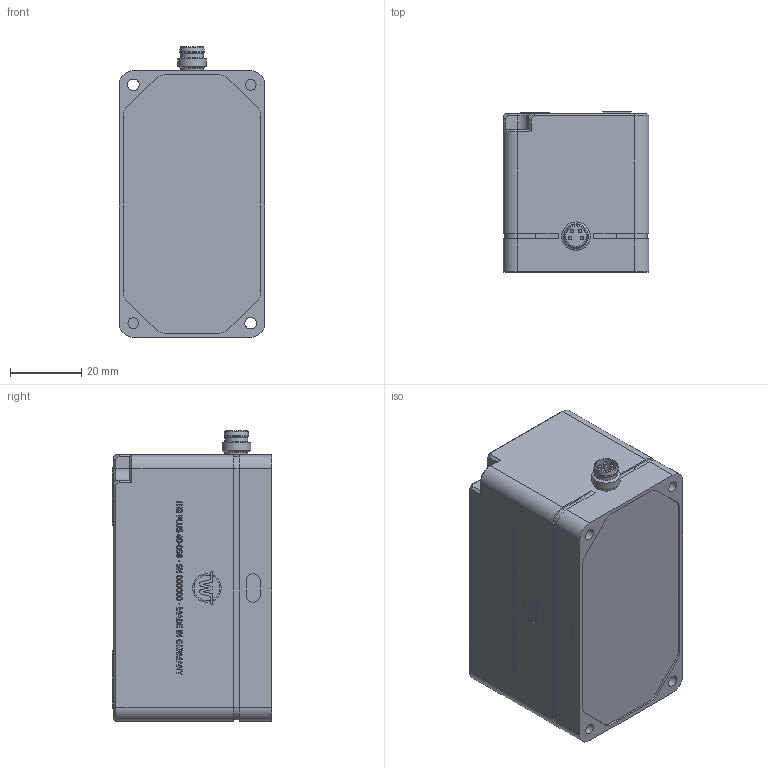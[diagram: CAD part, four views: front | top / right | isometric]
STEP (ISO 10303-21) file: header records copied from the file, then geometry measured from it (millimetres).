
FILE_DESCRIPTION(/* description */ ('Servoelektrisches Greifmodul, sensorlose Greifkraftregelung, integrierte Greifteilerkennung und -überwachung, Finger vorpositionierbar, Greifkraft 40 N, Hub 50 mm, IO-Link Schnittstelle, ESD-ableitfähig, spritzwassergeschützt (IP 54).'),/* implementation_level */ '2;1');
FILE_NAME(/* name */ 'D:\ieg\Mechanik\IEG PLUS 40-050\Konturvereinfachung\IEG PLUS 40-050 Customer.stp',/* time_stamp */ '2024-05-06T13:19:52+02:00',/* author */ ('WEISS ROBOTICS GMBH & CO. KG'),/* organization */ (''),/* preprocessor_version */ 'ST-DEVELOPER v17',/* originating_system */ 'Autodesk Inventor 2018',/* authorisation */ '');
FILE_SCHEMA (('AUTOMOTIVE_DESIGN { 1 0 10303 214 3 1 1 }'));
Length unit declared in the file: millimetre
Products named in the file (3): IEG PLUS 30-050 Customer; IEG PLUS 200-030 Body; IEG55-0003-02
Assembly tree (3 placements, depth 2):
  IEG PLUS 30-050 Customer
    IEG PLUS 200-030 Body
    IEG55-0003-02  x2
Bounding box: 41 x 45 x 81.75 mm (x, y, z)
Volume: 129776.6 mm3; surface area: 21050.4 mm2
Topology: 8 solids, 8 shells, 752 faces, 2014 edges, 1345 vertices
Faces by surface type: plane 349, bspline 307, cylinder 81, cone 10, sphere 4, torus 1
Full cylindrical faces by diameter (mm): 1 x4, 1.5 x4, 3 x4, 3.016 x2, 3.3 x2, 5.8 x1, 6.5 x2, 6.9 x1, 8 x1
Entity records: 29429 total; most frequent: CARTESIAN_POINT 13236, ORIENTED_EDGE 3836, DIRECTION 2310, EDGE_CURVE 1918, VERTEX_POINT 1281, LINE 1130, VECTOR 1130, EDGE_LOOP 787
